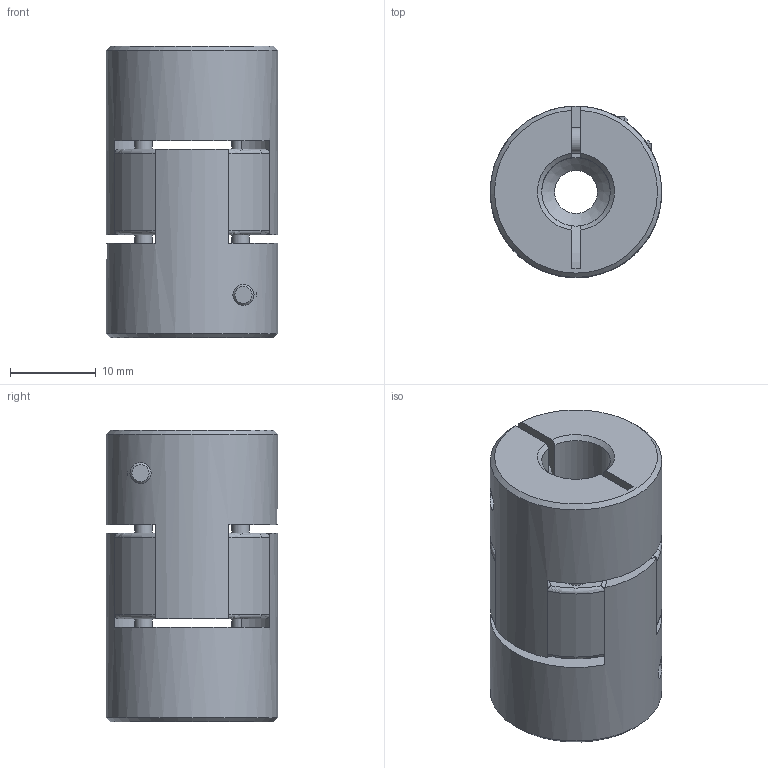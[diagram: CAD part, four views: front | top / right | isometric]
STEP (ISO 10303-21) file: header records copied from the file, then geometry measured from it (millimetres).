
FILE_DESCRIPTION(('STEP AP214'), '1');
FILE_NAME('BF-20-8-8 - Ìóôòà', '', ('UNSPECIFIED'), ('UNSPECIFIED'), 'ASCON STEP Converter 1.6', 'ASCON Math Kernel', '');
FILE_SCHEMA(('AUTOMOTIVE_DESIGN { 1 0 10303 214 3 1 1}'));
Length unit declared in the file: millimetre
Products named in the file (4): BF-20-6.35-8; BF-20-8-8
Assembly tree (5 placements, depth 2):
  (unnamed)
    BF-20-6.35-8
    BF-20-8-8  x2
    (unnamed)  x2
Bounding box: 20 x 20 x 34 mm (x, y, z)
Volume: 8383.1 mm3; surface area: 6115.4 mm2
Topology: 5 solids, 5 shells, 149 faces, 351 edges, 224 vertices
Faces by surface type: plane 56, cylinder 53, torus 24, cone 16
Full cylindrical faces by diameter (mm): 2 x4, 2.459 x4, 2.5 x2, 3 x2, 5 x1, 5.5 x2, 6 x2, 10 x2
Entity records: 4669 total; most frequent: CARTESIAN_POINT 1261, DIRECTION 515, ORIENTED_EDGE 438, AXIS2_PLACEMENT_3D 230, EDGE_CURVE 219, VERTEX_POINT 149, EDGE_LOOP 136, CIRCLE 117
